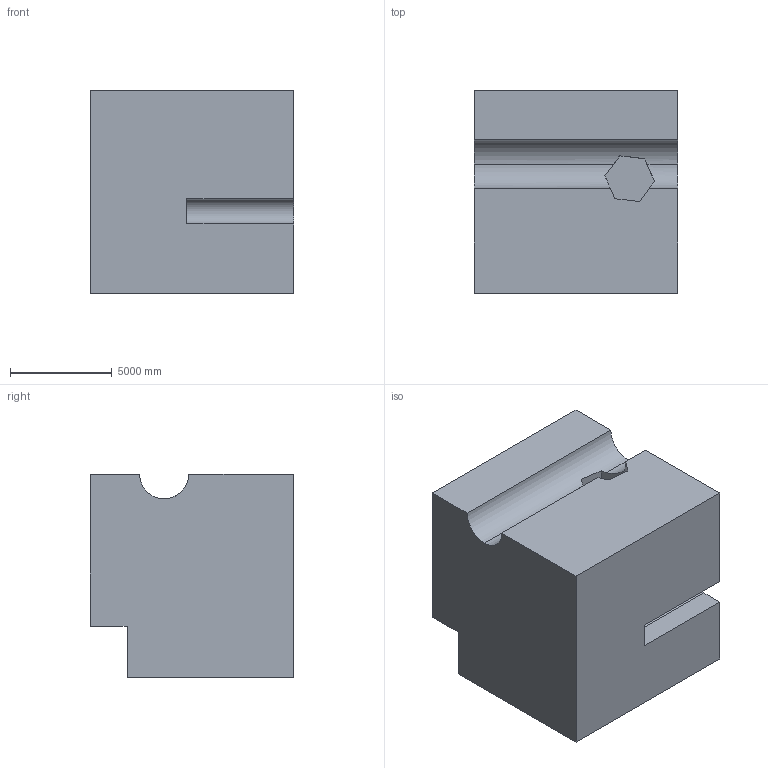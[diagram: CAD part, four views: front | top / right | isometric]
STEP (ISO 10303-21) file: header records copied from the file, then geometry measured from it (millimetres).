
FILE_DESCRIPTION (( 'STEP AP203' ), '1' );
FILE_NAME ('1699.STEP', '2022-08-19T11:50:18', ( 'user' ), ( '' ), 'SwSTEP 2.0', 'SolidWorks 2021', '' );
FILE_SCHEMA (( 'CONFIG_CONTROL_DESIGN' ));
Length unit declared in the file: centimetre
Products named in the file (1): 1699
Bounding box: 10000 x 10000 x 10000 mm (x, y, z)
Volume: 869229646772.2 mm3; surface area: 701222622 mm2
Topology: 1 solids, 1 shells, 39 faces, 105 edges, 70 vertices
Faces by surface type: plane 29, cylinder 10
Entity records: 1294 total; most frequent: CARTESIAN_POINT 236, ORIENTED_EDGE 210, DIRECTION 196, EDGE_CURVE 105, LINE 80, VECTOR 80, VERTEX_POINT 70, AXIS2_PLACEMENT_3D 58
